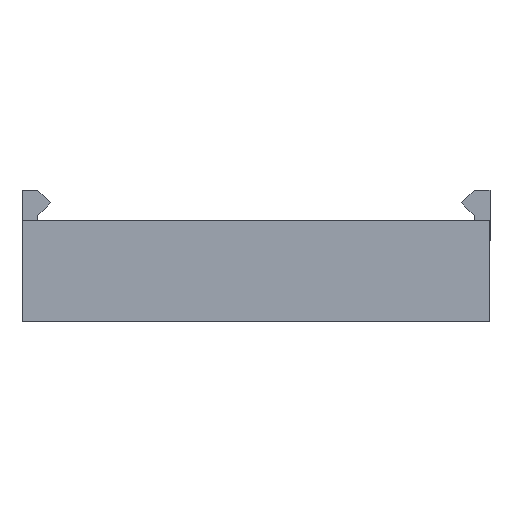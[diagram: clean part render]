
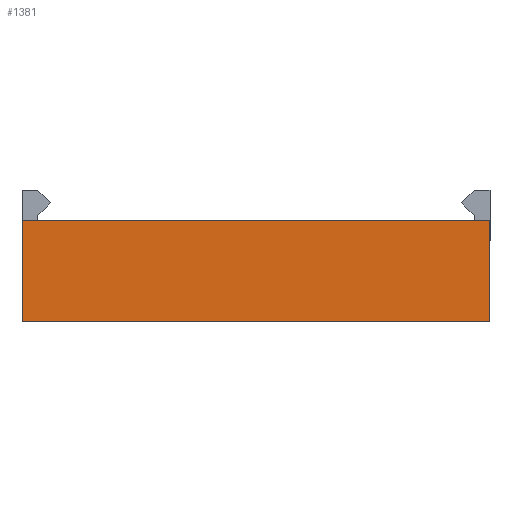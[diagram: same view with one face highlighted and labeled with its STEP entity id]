
A CAD part, left-side view. The second image highlights one B-rep face of the part: STEP entity #1381.
In plain terms, the highlighted planar face has unit normal (-1, 0, 0).
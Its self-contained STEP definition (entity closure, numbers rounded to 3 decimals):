
#76=PLANE('',#1487);
#144=FACE_OUTER_BOUND('',#217,.T.);
#217=EDGE_LOOP('',(#1299,#1300,#1301,#1302));
#242=LINE('',#1915,#414);
#375=LINE('',#2209,#547);
#387=LINE('',#2232,#559);
#389=LINE('',#2238,#561);
#414=VECTOR('',#1548,10.);
#547=VECTOR('',#1801,10.);
#559=VECTOR('',#1833,10.);
#561=VECTOR('',#1843,10.);
#609=VERTEX_POINT('',#1908);
#612=VERTEX_POINT('',#1913);
#712=VERTEX_POINT('',#2205);
#713=VERTEX_POINT('',#2207);
#747=EDGE_CURVE('',#612,#609,#242,.T.);
#896=EDGE_CURVE('',#713,#712,#375,.T.);
#908=EDGE_CURVE('',#609,#713,#387,.T.);
#910=EDGE_CURVE('',#612,#712,#389,.T.);
#1299=ORIENTED_EDGE('',*,*,#747,.F.);
#1300=ORIENTED_EDGE('',*,*,#910,.T.);
#1301=ORIENTED_EDGE('',*,*,#896,.F.);
#1302=ORIENTED_EDGE('',*,*,#908,.F.);
#1381=ADVANCED_FACE('',(#144),#76,.T.);
#1487=AXIS2_PLACEMENT_3D('',#2239,#1844,#1845);
#1548=DIRECTION('',(0.,1.,0.));
#1801=DIRECTION('',(0.,-1.,0.));
#1833=DIRECTION('',(0.,0.,1.));
#1843=DIRECTION('',(0.,0.,1.));
#1844=DIRECTION('center_axis',(-1.,0.,0.));
#1845=DIRECTION('ref_axis',(0.,-1.,0.));
#1908=CARTESIAN_POINT('',(-27.5,18.5,0.));
#1913=CARTESIAN_POINT('',(-27.5,-18.5,0.));
#1915=CARTESIAN_POINT('',(-27.5,-18.5,0.));
#2205=CARTESIAN_POINT('',(-27.5,-18.5,8.));
#2207=CARTESIAN_POINT('',(-27.5,18.5,8.));
#2209=CARTESIAN_POINT('',(-27.5,-18.5,8.));
#2232=CARTESIAN_POINT('',(-27.5,18.5,0.));
#2238=CARTESIAN_POINT('',(-27.5,-18.5,0.));
#2239=CARTESIAN_POINT('Origin',(-27.5,18.5,0.));
